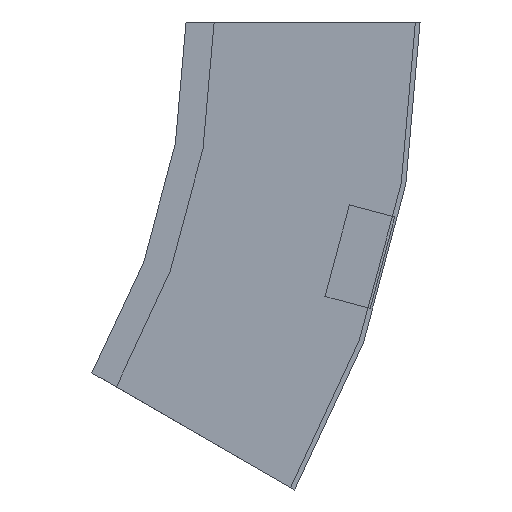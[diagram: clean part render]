
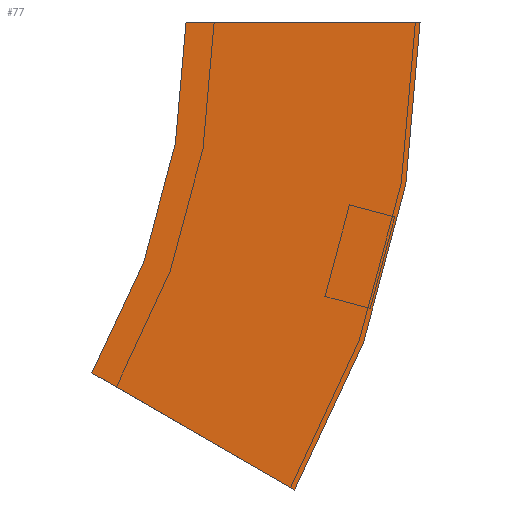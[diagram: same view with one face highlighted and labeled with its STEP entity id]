
A CAD part, left-side view. The second image highlights one B-rep face of the part: STEP entity #77.
In plain terms, the highlighted planar face has unit normal (-1, 0, 0) as drawn and (1, 0, 0) by its records, which use the part's own axes.
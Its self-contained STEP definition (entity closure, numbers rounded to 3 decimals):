
#3 = ORIENTED_EDGE ( 'NONE', *, *, #66, .F. ) ;
#9 = AXIS2_PLACEMENT_3D ( 'NONE', #156, #286, #254 ) ;
#16 = AXIS2_PLACEMENT_3D ( 'NONE', #270, #162, #386 ) ;
#34 = LINE ( 'NONE', #194, #539 ) ;
#50 = DIRECTION ( 'NONE',  ( 0., 0., 1. ) ) ;
#66 = EDGE_CURVE ( 'NONE', #82, #272, #81, .T. ) ;
#77 = ADVANCED_FACE ( 'NONE', ( #375 ), #439, .F. ) ;
#81 = CIRCLE ( 'NONE', #9, 300. ) ;
#82 = VERTEX_POINT ( 'NONE', #450 ) ;
#101 = ORIENTED_EDGE ( 'NONE', *, *, #492, .T. ) ;
#144 = LINE ( 'NONE', #554, #553 ) ;
#156 = CARTESIAN_POINT ( 'NONE',  ( 0., 300., 0. ) ) ;
#162 = DIRECTION ( 'NONE',  ( 1., 0., 0. ) ) ;
#194 = CARTESIAN_POINT ( 'NONE',  ( 0., -46.41, -200. ) ) ;
#201 = EDGE_CURVE ( 'NONE', #261, #82, #144, .T. ) ;
#203 = AXIS2_PLACEMENT_3D ( 'NONE', #307, #535, #50 ) ;
#208 = CIRCLE ( 'NONE', #16, 400. ) ;
#254 = DIRECTION ( 'NONE',  ( 0., -1., 0. ) ) ;
#261 = VERTEX_POINT ( 'NONE', #406 ) ;
#270 = CARTESIAN_POINT ( 'NONE',  ( 0., 300., 0. ) ) ;
#272 = VERTEX_POINT ( 'NONE', #415 ) ;
#286 = DIRECTION ( 'NONE',  ( 1., 0., 0. ) ) ;
#307 = CARTESIAN_POINT ( 'NONE',  ( 0., -100., 0. ) ) ;
#314 = CARTESIAN_POINT ( 'NONE',  ( 0., -46.41, -200. ) ) ;
#359 = VERTEX_POINT ( 'NONE', #314 ) ;
#361 = ORIENTED_EDGE ( 'NONE', *, *, #201, .F. ) ;
#363 = DIRECTION ( 'NONE',  ( 0., 0.866, 0.5 ) ) ;
#375 = FACE_OUTER_BOUND ( 'NONE', #446, .T. ) ;
#386 = DIRECTION ( 'NONE',  ( 0., -1., 0. ) ) ;
#398 = EDGE_CURVE ( 'NONE', #261, #359, #208, .T. ) ;
#405 = ORIENTED_EDGE ( 'NONE', *, *, #398, .T. ) ;
#406 = CARTESIAN_POINT ( 'NONE',  ( 0., -100., 0. ) ) ;
#415 = CARTESIAN_POINT ( 'NONE',  ( 0., 40.192, -150. ) ) ;
#439 = PLANE ( 'NONE',  #203 ) ;
#446 = EDGE_LOOP ( 'NONE', ( #3, #361, #405, #101 ) ) ;
#450 = CARTESIAN_POINT ( 'NONE',  ( 0., 0., 0. ) ) ;
#492 = EDGE_CURVE ( 'NONE', #359, #272, #34, .T. ) ;
#503 = DIRECTION ( 'NONE',  ( 0., 1., 0. ) ) ;
#535 = DIRECTION ( 'NONE',  ( -1., 0., 0. ) ) ;
#539 = VECTOR ( 'NONE', #363, 1000. ) ;
#553 = VECTOR ( 'NONE', #503, 1000. ) ;
#554 = CARTESIAN_POINT ( 'NONE',  ( 0., -100., 0. ) ) ;
